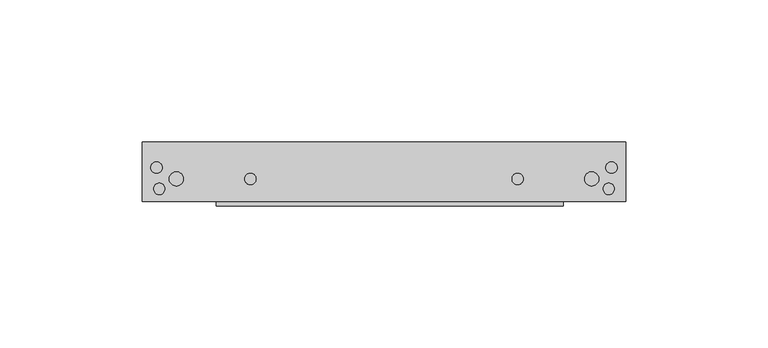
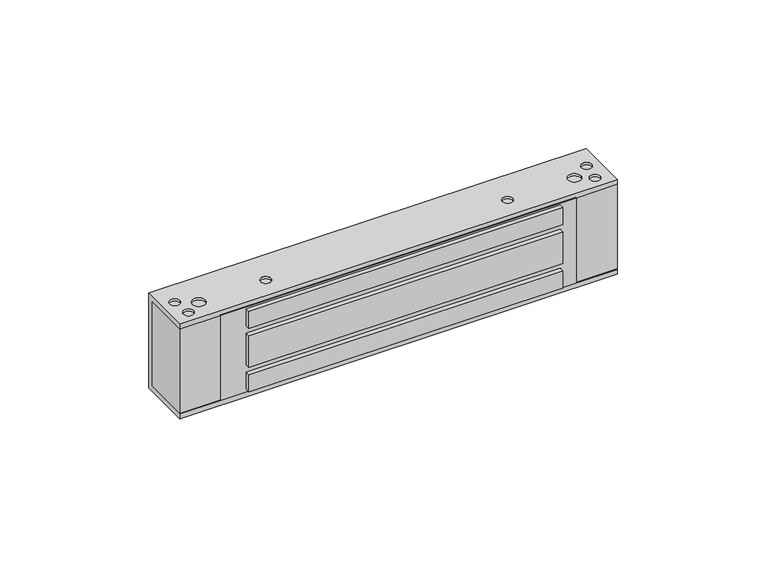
"""IFC4 building model written with IfcOpenShell, lengths in millimetres: proxy geometry, Электромагнитный_замок_ML-180AN_AccordTec_R19 : Электромагнитный_замок_ML-180AN_AccordTec_R19."""

import ifcopenshell
import ifcopenshell.guid

model = None  # the IFC model being written
_history = None  # IfcOwnerHistory: only IFC2X3 demands one
_inside = {}  # id of a spatial element -> (the spatial element, [elements in it])
_under = {}  # id of a project, library or spatial element -> (it, [spatial elements below it])
_declared = {}  # id of a project -> (the project, [libraries it declares])
_typed = {}  # id of a type object -> (the type object, [elements of that type])
_made_of = {}  # id of a material, layer set ... -> (it, [elements and type objects made of it])


def new_model(schema):
    """Start an empty IFC model of exactly this schema.

    Asked for "IFC4X3", IfcOpenShell would pick the latest addendum, in which some entities
    have other attributes; the version numbers below select the first issue.
    IFC2X3 requires an IfcOwnerHistory on every rooted entity: one is made here for all.
    """
    global model, _history
    if schema == "IFC4X3":
        model = ifcopenshell.file(schema_version=(4, 3, 0, 0))
    else:
        model = ifcopenshell.file(schema=schema)
    _inside.clear()
    _under.clear()
    _declared.clear()
    _typed.clear()
    _made_of.clear()
    _history = None
    if model.schema == "IFC2X3":
        org = make("IfcOrganization", Name="unknown")
        user = make(
            "IfcPersonAndOrganization",
            ThePerson=make("IfcPerson", FamilyName="unknown"),
            TheOrganization=org,
        )
        app = make(
            "IfcApplication",
            ApplicationDeveloper=org,
            Version="unknown",
            ApplicationFullName="unknown",
            ApplicationIdentifier="unknown",
        )
        _history = make(
            "IfcOwnerHistory",
            OwningUser=user,
            OwningApplication=app,
            ChangeAction="ADDED",
            CreationDate=0,
        )
    return model


def make(cls, **values):
    """One entity of the class cls with the attributes given. An attribute that is None is left unset."""
    return model.create_entity(
        cls, **{name: value for name, value in values.items() if value is not None}
    )


def rooted(cls, **values):
    """An entity with a GlobalId (a new one), such as an element, a storey or a relation."""
    return make(cls, GlobalId=ifcopenshell.guid.new(), OwnerHistory=_history, **values)


def si_unit(unit_type, name, prefix=None):
    """IfcSIUnit, for example si_unit("LENGTHUNIT", "METRE", prefix="MILLI")."""
    return make("IfcSIUnit", UnitType=unit_type, Prefix=prefix, Name=name)


def assignment(units):
    """IfcUnitAssignment: the units of a project."""
    return None if units is None else make("IfcUnitAssignment", Units=units)


def point(xyz):
    """IfcCartesianPoint."""
    return None if xyz is None else make("IfcCartesianPoint", Coordinates=xyz)


def direction(xyz):
    """IfcDirection."""
    return None if xyz is None else make("IfcDirection", DirectionRatios=xyz)


def frame(location, z_axis=None, x_axis=None):
    """IfcAxis2Placement3D, a coordinate frame: its origin and axes. An axis left out is left unset."""
    return make(
        "IfcAxis2Placement3D",
        Location=point(location),
        Axis=direction(z_axis),
        RefDirection=direction(x_axis),
    )


def origin():
    """The frame at (0, 0, 0) with its axes left unset."""
    return frame((0.0, 0.0, 0.0))


def place(relative_to, where):
    """IfcLocalPlacement: puts the frame where relative to a parent placement (None: the world)."""
    return make(
        "IfcLocalPlacement", PlacementRelTo=relative_to, RelativePlacement=where
    )


def context(
    kind, dimensions, precision=None, world=None, true_north=None, identifier=None
):
    """IfcGeometricRepresentationContext, for example the 3D "Model" context."""
    return make(
        "IfcGeometricRepresentationContext",
        ContextIdentifier=identifier,
        ContextType=kind,
        CoordinateSpaceDimension=dimensions,
        Precision=precision,
        WorldCoordinateSystem=world,
        TrueNorth=true_north,
    )


def project(units=None, contexts=None):
    """IfcProject with its units and contexts."""
    return rooted(
        "IfcProject",
        Name="project",
        RepresentationContexts=contexts,
        UnitsInContext=assignment(units),
    )


def spatial(cls, under=None, at=None, **own):
    """A site, building, storey or space (cls), placed at a placement, below another one or the project."""
    s = rooted(cls, ObjectPlacement=at, **own)
    if under is not None:
        _under.setdefault(under.id(), (under, []))[1].append(s)
    return s


def polyline(points):
    """IfcPolyline through the points."""
    return make("IfcPolyline", Points=[point(p) for p in points])


def circle_curve(where, radius):
    """IfcCircle in the frame where."""
    return make("IfcCircle", Position=where, Radius=radius)


def outline(outer, holes=None, kind="AREA"):
    """IfcArbitraryClosedProfileDef: a profile drawn as a closed curve; with holes, ...WithVoids."""
    if holes is None:
        return make("IfcArbitraryClosedProfileDef", ProfileType=kind, OuterCurve=outer)
    return make(
        "IfcArbitraryProfileDefWithVoids",
        ProfileType=kind,
        OuterCurve=outer,
        InnerCurves=holes,
    )


def extrude(swept, where, along, depth):
    """IfcExtrudedAreaSolid: the profile swept, set in the frame where, extruded along a direction by depth."""
    return make(
        "IfcExtrudedAreaSolid",
        SweptArea=swept,
        Position=where,
        ExtrudedDirection=direction(along),
        Depth=depth,
    )


def shape(context_of_items, identifier, shape_type, items):
    """IfcShapeRepresentation: the items that make up one representation, for example the "Body"."""
    return make(
        "IfcShapeRepresentation",
        ContextOfItems=context_of_items,
        RepresentationIdentifier=identifier,
        RepresentationType=shape_type,
        Items=items,
    )


def source(mapping_origin, context_of_items, identifier, shape_type, items):
    """IfcRepresentationMap: a shape defined once, which mapped items show again and again."""
    return make(
        "IfcRepresentationMap",
        MappingOrigin=mapping_origin,
        MappedRepresentation=shape(context_of_items, identifier, shape_type, items),
    )


def transform(
    local_origin,
    x_axis=None,
    y_axis=None,
    z_axis=None,
    scale=None,
    scale2=None,
    scale3=None,
    uniform=True,
):
    """IfcCartesianTransformationOperator3D, or its non-uniform kind. x_axis, y_axis, z_axis: its Axis1, 2, 3."""
    if uniform:
        return make(
            "IfcCartesianTransformationOperator3D",
            Axis1=direction(x_axis),
            Axis2=direction(y_axis),
            LocalOrigin=point(local_origin),
            Scale=scale,
            Axis3=direction(z_axis),
        )
    return make(
        "IfcCartesianTransformationOperator3DnonUniform",
        Axis1=direction(x_axis),
        Axis2=direction(y_axis),
        LocalOrigin=point(local_origin),
        Scale=scale,
        Axis3=direction(z_axis),
        Scale2=scale2,
        Scale3=scale3,
    )


def mapped(mapping_source, mapping_target):
    """IfcMappedItem: shows the shape of a source again, moved by a transform."""
    return make(
        "IfcMappedItem", MappingSource=mapping_source, MappingTarget=mapping_target
    )


def made_of(thing, what):
    """Note that an element or type object is made of a material, layer set ...; save() writes the relation."""
    if what is not None:
        _made_of.setdefault(what.id(), (what, []))[1].append(thing)
    return thing


def element(
    cls,
    number,
    at=None,
    inside=None,
    cuts=None,
    type_object=None,
    material=None,
    context=None,
    identifier="Body",
    shape_type=None,
    held_by="IfcProductDefinitionShape",
    body=None,
    shapes=None,
    **own,
):
    """One element of the class cls, such as IfcWall. Its Tag is "e" and its number.

    at: its placement. inside: the storey or other place that contains it. cuts: it is an
    opening in that element (IfcRelVoidsElement). A single representation is given by context,
    identifier, shape_type and body (its items); several are given by shapes. held_by: the class
    of the entity that holds the representations. save() writes the other relations.
    """
    e = rooted(cls, Tag="e%d" % number, ObjectPlacement=at, **own)
    if body is not None:
        shapes = [shape(context, identifier, shape_type, body)]
    if shapes is not None:
        e.Representation = make(held_by, Representations=shapes)
    if inside is not None:
        _inside.setdefault(inside.id(), (inside, []))[1].append(e)
    if cuts is not None:
        rooted(
            "IfcRelVoidsElement", RelatingBuildingElement=cuts, RelatedOpeningElement=e
        )
    if type_object is not None:
        _typed.setdefault(type_object.id(), (type_object, []))[1].append(e)
    return made_of(e, material)


def aggregate(whole, parts):
    """IfcRelAggregates: a whole, such as a stair, and the parts it consists of."""
    return rooted("IfcRelAggregates", RelatingObject=whole, RelatedObjects=parts)


def save(model, path):
    """Write the relations noted so far, then the file.

    IfcRelAggregates (storeys below a building ...), IfcRelContainedInSpatialStructure (elements
    in a storey), IfcRelDefinesByType, IfcRelAssociatesMaterial and IfcRelDeclares: one each for
    every whole, place, type object, material and project.
    """
    for whole, parts in _under.values():
        aggregate(whole, parts)
    for where, things in _inside.values():
        rooted(
            "IfcRelContainedInSpatialStructure",
            RelatedElements=things,
            RelatingStructure=where,
        )
    for kind, things in _typed.values():
        rooted("IfcRelDefinesByType", RelatedObjects=things, RelatingType=kind)
    for what, things in _made_of.values():
        rooted("IfcRelAssociatesMaterial", RelatedObjects=things, RelatingMaterial=what)
    for by, libraries in _declared.values():
        rooted("IfcRelDeclares", RelatingContext=by, RelatedDefinitions=libraries)
    model.write(path)


def plane_surface(at):
    """IfcPlane: the flat surface through the origin of the frame at, square to its z axis."""
    return make("IfcPlane", Position=at)


def revolved_surface(curve, axis_point, axis_direction):
    """IfcSurfaceOfRevolution: the curve turned about the line through axis_point along axis_direction."""
    return make(
        "IfcSurfaceOfRevolution",
        SweptCurve=make("IfcArbitraryOpenProfileDef", ProfileType="CURVE", Curve=curve),
        AxisPosition=make("IfcAxis1Placement", Location=point(axis_point), Axis=direction(axis_direction)),
    )


def advanced_brep(points, edges, surfaces, faces):
    """IfcAdvancedBrep: a solid bounded by faces that lie on surfaces and meet in shared edges.

    An edge is (start, end): straight between two places in points (the first is 0);
    or (start, end, curve); or (start, end, curve, False) where it runs against its curve.
    A face is (place in surfaces, loops), or (place, loops, False) where it looks against
    its surface's normal. A loop lists edges by number (the first is 1), with a minus sign
    where the edge is run from its end to its start. The first loop is the outer one.
    """
    corners = [point(p) for p in points]
    vertices = [make("IfcVertexPoint", VertexGeometry=c) for c in corners]
    made = []
    for start, end, *more in edges:
        made.append(
            make(
                "IfcEdgeCurve",
                EdgeStart=vertices[start],
                EdgeEnd=vertices[end],
                EdgeGeometry=more[0] if more else make("IfcPolyline", Points=[corners[start], corners[end]]),
                SameSense=more[1] if len(more) > 1 else True,
            )
        )
    hull = []
    for where, loops, *sense in faces:
        bounds = []
        for j, loop in enumerate(loops):
            ring = [make("IfcOrientedEdge", EdgeElement=made[abs(k) - 1], Orientation=k > 0) for k in loop]
            bounds.append(
                make(
                    "IfcFaceOuterBound" if j == 0 else "IfcFaceBound",
                    Bound=make("IfcEdgeLoop", EdgeList=ring),
                    Orientation=True,
                )
            )
        hull.append(make("IfcAdvancedFace", Bounds=bounds, FaceSurface=surfaces[where], SameSense=sense[0] if sense else True))
    return make("IfcAdvancedBrep", Outer=make("IfcClosedShell", CfsFaces=hull))


def generic_models_3db6b747(model_context):
    return source(origin(), model_context, "Body", "SolidModel", [
        extrude(outline(polyline([(148.0, -1.5), (26.0, -1.5), (26.0, 1.0), (148.0, 1.0), (148.0, -1.5)])), frame((0.0, 0.0, 29.0), z_axis=(0.0, 0.0, 1.0), x_axis=(1.0, 0.0, 0.0)), (0.0, 0.0, 1.0), 7.0),
        extrude(outline(polyline([(148.0, -1.5), (26.0, -1.5), (26.0, 1.0), (148.0, 1.0), (148.0, -1.5)])), frame((0.0, 0.0, 13.0), z_axis=(0.0, 0.0, 1.0), x_axis=(1.0, 0.0, 0.0)), (0.0, 0.0, 1.0), 13.0),
        extrude(outline(polyline([(148.0, -1.5), (26.0, -1.5), (26.0, 1.0), (148.0, 1.0), (148.0, -1.5)])), frame((0.0, 0.0, 3.0), z_axis=(0.0, 0.0, 1.0), x_axis=(1.0, 0.0, 0.0)), (0.0, 0.0, 1.0), 7.0),
        extrude(outline(polyline([(37.0, 154.0), (37.0, 16.0), (2.0, 16.0), (2.0, 154.0), (37.0, 154.0)]), holes=[polyline([(36.0, 26.0), (36.0, 148.0), (29.0, 148.0), (29.0, 26.0), (36.0, 26.0)]), polyline([(26.0, 26.0), (26.0, 148.0), (13.0, 148.0), (13.0, 26.0), (26.0, 26.0)]), polyline([(10.0, 26.0), (10.0, 148.0), (3.0, 148.0), (3.0, 26.0), (10.0, 26.0)])]), frame((0.0, 0.0, 0.0), z_axis=(0.0, 1.0, 0.0), x_axis=(0.0, 0.0, 1.0)), (0.0, 0.0, 1.0), 1.0),
        advanced_brep(
        [(170.0, 0.0, 37.0), (170.0, 19.0, 37.0), (170.0, 19.0, 2.0), (170.0, 0.0, 2.0), (170.0, 0.0, 0.0), (170.0, 21.0, 0.0), (170.0, 21.0, 39.0), (170.0, 0.0, 39.0), (0.0, 0.0, 37.0), (0.0, 0.0, 39.0), (0.0, 21.0, 39.0), (0.0, 21.0, 0.0), (0.0, 0.0, 0.0), (0.0, 0.0, 2.0), (0.0, 19.0, 2.0), (0.0, 19.0, 37.0), (154.0, 0.0, 37.0), (16.0, 0.0, 37.0), (16.0, 0.0, 2.0), (154.0, 0.0, 2.0), (3.0, 12.0, 0.0), (7.0, 12.0, 0.0), (4.0, 4.5, 0.0), (8.0, 4.5, 0.0), (36.0, 8.0, 0.0), (40.0, 8.0, 0.0), (130.0, 8.0, 0.0), (134.0, 8.0, 0.0), (163.0, 12.0, 0.0), (167.0, 12.0, 0.0), (162.0, 4.5, 0.0), (166.0, 4.5, 0.0), (3.0, 12.0, 39.0), (7.0, 12.0, 39.0), (9.5, 8.0, 39.0), (14.5, 8.0, 39.0), (4.0, 4.5, 39.0), (8.0, 4.5, 39.0), (36.0, 8.0, 39.0), (40.0, 8.0, 39.0), (130.0, 8.0, 39.0), (134.0, 8.0, 39.0), (155.5, 8.0, 39.0), (160.5, 8.0, 39.0), (163.0, 12.0, 39.0), (167.0, 12.0, 39.0), (162.0, 4.5, 39.0), (166.0, 4.5, 39.0), (3.0, 12.0, 1.0), (7.0, 12.0, 1.0), (4.0, 4.5, 1.0), (8.0, 4.5, 1.0), (36.0, 8.0, 1.0), (40.0, 8.0, 1.0), (130.0, 8.0, 1.0), (134.0, 8.0, 1.0), (163.0, 12.0, 1.0), (167.0, 12.0, 1.0), (162.0, 4.5, 1.0), (166.0, 4.5, 1.0), (3.0, 12.0, 38.0), (7.0, 12.0, 38.0), (9.5, 8.0, 38.0), (14.5, 8.0, 38.0), (4.0, 4.5, 38.0), (8.0, 4.5, 38.0), (36.0, 8.0, 38.0), (40.0, 8.0, 38.0), (130.0, 8.0, 38.0), (134.0, 8.0, 38.0), (155.5, 8.0, 38.0), (160.5, 8.0, 38.0), (163.0, 12.0, 38.0), (167.0, 12.0, 38.0), (162.0, 4.5, 38.0), (166.0, 4.5, 38.0)],
        [
            (0, 1),
            (1, 2),
            (2, 3),
            (3, 4),
            (4, 5),
            (5, 6),
            (6, 7),
            (7, 0),
            (8, 9),
            (9, 10),
            (10, 11),
            (11, 12),
            (12, 13),
            (13, 14),
            (14, 15),
            (15, 8),
            (0, 16),
            (16, 17),
            (17, 8),
            (15, 1),
            (14, 2),
            (13, 18),
            (18, 19),
            (19, 3),
            (12, 4),
            (11, 5),
            (20, 21, circle_curve(frame((5.0, 12.0, 0.0), z_axis=(0.0, 0.0, 1.0), x_axis=(1.0, 0.0, 0.0)), 2.0)),
            (21, 20, circle_curve(frame((5.0, 12.0, 0.0), z_axis=(0.0, 0.0, 1.0), x_axis=(1.0, 0.0, 0.0)), 2.0)),
            (22, 23, circle_curve(frame((6.0, 4.5, 0.0), z_axis=(0.0, 0.0, 1.0), x_axis=(1.0, 0.0, 0.0)), 2.0)),
            (23, 22, circle_curve(frame((6.0, 4.5, 0.0), z_axis=(0.0, 0.0, 1.0), x_axis=(1.0, 0.0, 0.0)), 2.0)),
            (24, 25, circle_curve(frame((38.0, 8.0, 0.0), z_axis=(0.0, 0.0, 1.0), x_axis=(1.0, 0.0, 0.0)), 2.0)),
            (25, 24, circle_curve(frame((38.0, 8.0, 0.0), z_axis=(0.0, 0.0, 1.0), x_axis=(1.0, 0.0, 0.0)), 2.0)),
            (26, 27, circle_curve(frame((132.0, 8.0, 0.0), z_axis=(0.0, 0.0, 1.0), x_axis=(1.0, 0.0, 0.0)), 2.0)),
            (27, 26, circle_curve(frame((132.0, 8.0, 0.0), z_axis=(0.0, 0.0, 1.0), x_axis=(1.0, 0.0, 0.0)), 2.0)),
            (28, 29, circle_curve(frame((165.0, 12.0, 0.0), z_axis=(0.0, 0.0, 1.0), x_axis=(1.0, 0.0, 0.0)), 2.0)),
            (29, 28, circle_curve(frame((165.0, 12.0, 0.0), z_axis=(0.0, 0.0, 1.0), x_axis=(1.0, 0.0, 0.0)), 2.0)),
            (30, 31, circle_curve(frame((164.0, 4.5, 0.0), z_axis=(0.0, 0.0, 1.0), x_axis=(1.0, 0.0, 0.0)), 2.0)),
            (31, 30, circle_curve(frame((164.0, 4.5, 0.0), z_axis=(0.0, 0.0, 1.0), x_axis=(1.0, 0.0, 0.0)), 2.0)),
            (10, 6),
            (9, 7),
            (32, 33, circle_curve(frame((5.0, 12.0, 39.0), z_axis=(0.0, 0.0, -1.0), x_axis=(1.0, 0.0, 0.0)), 2.0)),
            (33, 32, circle_curve(frame((5.0, 12.0, 39.0), z_axis=(0.0, 0.0, -1.0), x_axis=(1.0, 0.0, 0.0)), 2.0)),
            (34, 35, circle_curve(frame((12.0, 8.0, 39.0), z_axis=(0.0, 0.0, -1.0), x_axis=(1.0, 0.0, 0.0)), 2.5)),
            (35, 34, circle_curve(frame((12.0, 8.0, 39.0), z_axis=(0.0, 0.0, -1.0), x_axis=(1.0, 0.0, 0.0)), 2.5)),
            (36, 37, circle_curve(frame((6.0, 4.5, 39.0), z_axis=(0.0, 0.0, -1.0), x_axis=(1.0, 0.0, 0.0)), 2.0)),
            (37, 36, circle_curve(frame((6.0, 4.5, 39.0), z_axis=(0.0, 0.0, -1.0), x_axis=(1.0, 0.0, 0.0)), 2.0)),
            (38, 39, circle_curve(frame((38.0, 8.0, 39.0), z_axis=(0.0, 0.0, -1.0), x_axis=(1.0, 0.0, 0.0)), 2.0)),
            (39, 38, circle_curve(frame((38.0, 8.0, 39.0), z_axis=(0.0, 0.0, -1.0), x_axis=(1.0, 0.0, 0.0)), 2.0)),
            (40, 41, circle_curve(frame((132.0, 8.0, 39.0), z_axis=(0.0, 0.0, -1.0), x_axis=(1.0, 0.0, 0.0)), 2.0)),
            (41, 40, circle_curve(frame((132.0, 8.0, 39.0), z_axis=(0.0, 0.0, -1.0), x_axis=(1.0, 0.0, 0.0)), 2.0)),
            (42, 43, circle_curve(frame((158.0, 8.0, 39.0), z_axis=(0.0, 0.0, -1.0), x_axis=(1.0, 0.0, 0.0)), 2.5)),
            (43, 42, circle_curve(frame((158.0, 8.0, 39.0), z_axis=(0.0, 0.0, -1.0), x_axis=(1.0, 0.0, 0.0)), 2.5)),
            (44, 45, circle_curve(frame((165.0, 12.0, 39.0), z_axis=(0.0, 0.0, -1.0), x_axis=(1.0, 0.0, 0.0)), 2.0)),
            (45, 44, circle_curve(frame((165.0, 12.0, 39.0), z_axis=(0.0, 0.0, -1.0), x_axis=(1.0, 0.0, 0.0)), 2.0)),
            (46, 47, circle_curve(frame((164.0, 4.5, 39.0), z_axis=(0.0, 0.0, -1.0), x_axis=(1.0, 0.0, 0.0)), 2.0)),
            (47, 46, circle_curve(frame((164.0, 4.5, 39.0), z_axis=(0.0, 0.0, -1.0), x_axis=(1.0, 0.0, 0.0)), 2.0)),
            (48, 49, circle_curve(frame((5.0, 12.0, 1.0), z_axis=(0.0, 0.0, -1.0), x_axis=(1.0, 0.0, 0.0)), 2.0)),
            (49, 48, circle_curve(frame((5.0, 12.0, 1.0), z_axis=(0.0, 0.0, -1.0), x_axis=(1.0, 0.0, 0.0)), 2.0)),
            (50, 51, circle_curve(frame((6.0, 4.5, 1.0), z_axis=(0.0, 0.0, -1.0), x_axis=(1.0, 0.0, 0.0)), 2.0)),
            (51, 50, circle_curve(frame((6.0, 4.5, 1.0), z_axis=(0.0, 0.0, -1.0), x_axis=(1.0, 0.0, 0.0)), 2.0)),
            (52, 53, circle_curve(frame((38.0, 8.0, 1.0), z_axis=(0.0, 0.0, -1.0), x_axis=(1.0, 0.0, 0.0)), 2.0)),
            (53, 52, circle_curve(frame((38.0, 8.0, 1.0), z_axis=(0.0, 0.0, -1.0), x_axis=(1.0, 0.0, 0.0)), 2.0)),
            (54, 55, circle_curve(frame((132.0, 8.0, 1.0), z_axis=(0.0, 0.0, -1.0), x_axis=(1.0, 0.0, 0.0)), 2.0)),
            (55, 54, circle_curve(frame((132.0, 8.0, 1.0), z_axis=(0.0, 0.0, -1.0), x_axis=(1.0, 0.0, 0.0)), 2.0)),
            (56, 57, circle_curve(frame((165.0, 12.0, 1.0), z_axis=(0.0, 0.0, -1.0), x_axis=(1.0, 0.0, 0.0)), 2.0)),
            (57, 56, circle_curve(frame((165.0, 12.0, 1.0), z_axis=(0.0, 0.0, -1.0), x_axis=(1.0, 0.0, 0.0)), 2.0)),
            (58, 59, circle_curve(frame((164.0, 4.5, 1.0), z_axis=(0.0, 0.0, -1.0), x_axis=(1.0, 0.0, 0.0)), 2.0)),
            (59, 58, circle_curve(frame((164.0, 4.5, 1.0), z_axis=(0.0, 0.0, -1.0), x_axis=(1.0, 0.0, 0.0)), 2.0)),
            (49, 21),
            (20, 48),
            (51, 23),
            (22, 50),
            (53, 25),
            (24, 52),
            (55, 27),
            (26, 54),
            (57, 29),
            (28, 56),
            (59, 31),
            (30, 58),
            (60, 61, circle_curve(frame((5.0, 12.0, 38.0), z_axis=(0.0, 0.0, 1.0), x_axis=(1.0, 0.0, 0.0)), 2.0)),
            (61, 60, circle_curve(frame((5.0, 12.0, 38.0), z_axis=(0.0, 0.0, 1.0), x_axis=(1.0, 0.0, 0.0)), 2.0)),
            (62, 63, circle_curve(frame((12.0, 8.0, 38.0), z_axis=(0.0, 0.0, 1.0), x_axis=(1.0, 0.0, 0.0)), 2.5)),
            (63, 62, circle_curve(frame((12.0, 8.0, 38.0), z_axis=(0.0, 0.0, 1.0), x_axis=(1.0, 0.0, 0.0)), 2.5)),
            (64, 65, circle_curve(frame((6.0, 4.5, 38.0), z_axis=(0.0, 0.0, 1.0), x_axis=(1.0, 0.0, 0.0)), 2.0)),
            (65, 64, circle_curve(frame((6.0, 4.5, 38.0), z_axis=(0.0, 0.0, 1.0), x_axis=(1.0, 0.0, 0.0)), 2.0)),
            (66, 67, circle_curve(frame((38.0, 8.0, 38.0), z_axis=(0.0, 0.0, 1.0), x_axis=(1.0, 0.0, 0.0)), 2.0)),
            (67, 66, circle_curve(frame((38.0, 8.0, 38.0), z_axis=(0.0, 0.0, 1.0), x_axis=(1.0, 0.0, 0.0)), 2.0)),
            (68, 69, circle_curve(frame((132.0, 8.0, 38.0), z_axis=(0.0, 0.0, 1.0), x_axis=(1.0, 0.0, 0.0)), 2.0)),
            (69, 68, circle_curve(frame((132.0, 8.0, 38.0), z_axis=(0.0, 0.0, 1.0), x_axis=(1.0, 0.0, 0.0)), 2.0)),
            (70, 71, circle_curve(frame((158.0, 8.0, 38.0), z_axis=(0.0, 0.0, 1.0), x_axis=(1.0, 0.0, 0.0)), 2.5)),
            (71, 70, circle_curve(frame((158.0, 8.0, 38.0), z_axis=(0.0, 0.0, 1.0), x_axis=(1.0, 0.0, 0.0)), 2.5)),
            (72, 73, circle_curve(frame((165.0, 12.0, 38.0), z_axis=(0.0, 0.0, 1.0), x_axis=(1.0, 0.0, 0.0)), 2.0)),
            (73, 72, circle_curve(frame((165.0, 12.0, 38.0), z_axis=(0.0, 0.0, 1.0), x_axis=(1.0, 0.0, 0.0)), 2.0)),
            (74, 75, circle_curve(frame((164.0, 4.5, 38.0), z_axis=(0.0, 0.0, 1.0), x_axis=(1.0, 0.0, 0.0)), 2.0)),
            (75, 74, circle_curve(frame((164.0, 4.5, 38.0), z_axis=(0.0, 0.0, 1.0), x_axis=(1.0, 0.0, 0.0)), 2.0)),
            (61, 33),
            (32, 60),
            (63, 35),
            (34, 62),
            (65, 37),
            (36, 64),
            (67, 39),
            (38, 66),
            (69, 41),
            (40, 68),
            (71, 43),
            (42, 70),
            (73, 45),
            (44, 72),
            (75, 47),
            (46, 74),
        ],
        [
            plane_surface(frame((170.0, 0.0, 37.0), z_axis=(1.0, 0.0, 0.0), x_axis=(0.0, 1.0, 0.0))),
            plane_surface(frame((0.0, 0.0, 37.0), z_axis=(-1.0, 0.0, 0.0), x_axis=(0.0, -1.0, 0.0))),
            plane_surface(frame((170.0, 0.0, 37.0), z_axis=(0.0, 0.0, -1.0), x_axis=(-1.0, 0.0, 0.0))),
            plane_surface(frame((170.0, 19.0, 37.0), z_axis=(0.0, -1.0, 0.0), x_axis=(-1.0, 0.0, 0.0))),
            plane_surface(frame((170.0, 19.0, 2.0), z_axis=(0.0, 0.0, 1.0), x_axis=(-1.0, 0.0, 0.0))),
            plane_surface(frame((170.0, 0.0, 2.0), z_axis=(0.0, -1.0, 0.0), x_axis=(-1.0, 0.0, 0.0))),
            plane_surface(frame((170.0, 0.0, 0.0), z_axis=(0.0, 0.0, -1.0), x_axis=(-1.0, 0.0, 0.0))),
            plane_surface(frame((170.0, 21.0, 0.0), z_axis=(0.0, 1.0, 0.0), x_axis=(-1.0, 0.0, 0.0))),
            plane_surface(frame((170.0, 21.0, 39.0), z_axis=(0.0, 0.0, 1.0), x_axis=(-1.0, 0.0, 0.0))),
            plane_surface(frame((170.0, 0.0, 39.0), z_axis=(0.0, -1.0, 0.0), x_axis=(-1.0, 0.0, 0.0))),
            plane_surface(frame((7.0, 12.0, 1.0), z_axis=(0.0, 0.0, -1.0), x_axis=(0.0, 1.0, 0.0))),
            revolved_surface(polyline([(7.0, 12.0, 1.0), (7.0, 12.0, 0.0)]), (5.0, 12.0, -1.0), (0.0, 0.0, 1.0)),
            revolved_surface(polyline([(8.0, 4.5, 1.0), (8.0, 4.5, 0.0)]), (6.0, 4.5, 0.0), (0.0, 0.0, 1.0)),
            revolved_surface(polyline([(40.0, 8.0, 1.0), (40.0, 8.0, 0.0)]), (38.0, 8.0, 0.0), (0.0, 0.0, 1.0)),
            revolved_surface(polyline([(134.0, 8.0, 1.0), (134.0, 8.0, 0.0)]), (132.0, 8.0, 0.0), (0.0, 0.0, 1.0)),
            revolved_surface(polyline([(167.0, 12.0, 1.0), (167.0, 12.0, 0.0)]), (165.0, 12.0, 0.0), (0.0, 0.0, 1.0)),
            revolved_surface(polyline([(166.0, 4.5, 1.0), (166.0, 4.5, 0.0)]), (164.0, 4.5, 0.0), (0.0, 0.0, 1.0)),
            plane_surface(frame((7.0, 12.0, 38.0), z_axis=(0.0, 0.0, 1.0), x_axis=(0.0, -1.0, 0.0))),
            revolved_surface(polyline([(7.0, 12.0, 38.0), (7.0, 12.0, 39.0)]), (5.0, 12.0, 40.0), (0.0, 0.0, -1.0)),
            revolved_surface(polyline([(14.5, 8.0, 38.0), (14.5, 8.0, 39.0)]), (12.0, 8.0, 39.0), (0.0, 0.0, -1.0)),
            revolved_surface(polyline([(8.0, 4.5, 38.0), (8.0, 4.5, 39.0)]), (6.0, 4.5, 39.0), (0.0, 0.0, -1.0)),
            revolved_surface(polyline([(40.0, 8.0, 38.0), (40.0, 8.0, 39.0)]), (38.0, 8.0, 39.0), (0.0, 0.0, -1.0)),
            revolved_surface(polyline([(134.0, 8.0, 38.0), (134.0, 8.0, 39.0)]), (132.0, 8.0, 39.0), (0.0, 0.0, -1.0)),
            revolved_surface(polyline([(160.5, 8.0, 38.0), (160.5, 8.0, 39.0)]), (158.0, 8.0, 39.0), (0.0, 0.0, -1.0)),
            revolved_surface(polyline([(167.0, 12.0, 38.0), (167.0, 12.0, 39.0)]), (165.0, 12.0, 39.0), (0.0, 0.0, -1.0)),
            revolved_surface(polyline([(166.0, 4.5, 38.0), (166.0, 4.5, 39.0)]), (164.0, 4.5, 39.0), (0.0, 0.0, -1.0)),
        ],
        [
            (0, [[1, 2, 3, 4, 5, 6, 7, 8]]),
            (1, [[9, 10, 11, 12, 13, 14, 15, 16]]),
            (2, [[-1, 17, 18, 19, -16, 20]]),
            (3, [[-2, -20, -15, 21]]),
            (4, [[-3, -21, -14, 22, 23, 24]]),
            (5, [[-4, -24, -23, -22, -13, 25]]),
            (6, [[-5, -25, -12, 26], [27, 28], [29, 30], [31, 32], [33, 34], [35, 36], [37, 38]]),
            (7, [[-6, -26, -11, 39]]),
            (8, [[-7, -39, -10, 40], [41, 42], [43, 44], [45, 46], [47, 48], [49, 50], [51, 52], [53, 54], [55, 56]]),
            (9, [[-8, -40, -9, -19, -18, -17]]),
            (10, [[57, 58]]),
            (10, [[59, 60]]),
            (10, [[61, 62]]),
            (10, [[63, 64]]),
            (10, [[65, 66]]),
            (10, [[67, 68]]),
            (11, [[-58, 69, -27, 70]]),
            (11, [[-57, -70, -28, -69]]),
            (12, [[-60, 71, -29, 72]]),
            (12, [[-59, -72, -30, -71]]),
            (13, [[-62, 73, -31, 74]]),
            (13, [[-61, -74, -32, -73]]),
            (14, [[-64, 75, -33, 76]]),
            (14, [[-63, -76, -34, -75]]),
            (15, [[-66, 77, -35, 78]]),
            (15, [[-65, -78, -36, -77]]),
            (16, [[-68, 79, -37, 80]]),
            (16, [[-67, -80, -38, -79]]),
            (17, [[81, 82]]),
            (17, [[83, 84]]),
            (17, [[85, 86]]),
            (17, [[87, 88]]),
            (17, [[89, 90]]),
            (17, [[91, 92]]),
            (17, [[93, 94]]),
            (17, [[95, 96]]),
            (18, [[-82, 97, -41, 98]]),
            (18, [[-81, -98, -42, -97]]),
            (19, [[-84, 99, -43, 100]]),
            (19, [[-83, -100, -44, -99]]),
            (20, [[-86, 101, -45, 102]]),
            (20, [[-85, -102, -46, -101]]),
            (21, [[-88, 103, -47, 104]]),
            (21, [[-87, -104, -48, -103]]),
            (22, [[-90, 105, -49, 106]]),
            (22, [[-89, -106, -50, -105]]),
            (23, [[-92, 107, -51, 108]]),
            (23, [[-91, -108, -52, -107]]),
            (24, [[-94, 109, -53, 110]]),
            (24, [[-93, -110, -54, -109]]),
            (25, [[-96, 111, -55, 112]]),
            (25, [[-95, -112, -56, -111]]),
        ],
    ),
        extrude(outline(polyline([(0.0, 19.0), (170.0, 19.0), (170.0, 0.0), (154.0, 0.0), (154.0, 1.0), (16.0, 1.0), (16.0, 0.0), (0.0, 0.0), (0.0, 19.0)])), frame((0.0, 0.0, 2.0), z_axis=(0.0, 0.0, 1.0), x_axis=(1.0, 0.0, 0.0)), (0.0, 0.0, 1.0), 35.0),
    ])


if __name__ == "__main__":
    model = new_model("IFC4")
    model_context = context("Model", 3, world=origin())
    ifc_project = project(units=[si_unit("LENGTHUNIT", "METRE", prefix="MILLI")], contexts=[model_context])
    site = spatial("IfcSite", under=ifc_project)
    building = spatial("IfcBuilding", under=site)
    placement = place(None, origin())
    generic_models_shape = generic_models_3db6b747(model_context)
    element("IfcBuildingElementProxy", 1, Name="Электромагнитный_замок_ML-180AN_AccordTec_R19 : Электромагнитный_замок_ML-180AN_AccordTec_R19", ObjectType="Электромагнитный_замок_ML-180AN_AccordTec_R19 : Электромагнитный_замок_ML-180AN_AccordTec_R19", at=placement, inside=building, context=model_context, shape_type="MappedRepresentation", body=[
        mapped(generic_models_shape, transform((0.0, 0.0, 0.0), x_axis=(1.0, 0.0, 0.0), y_axis=(0.0, 1.0, 0.0), z_axis=(0.0, 0.0, 1.0))),
    ])
    save(model, "model.ifc")
